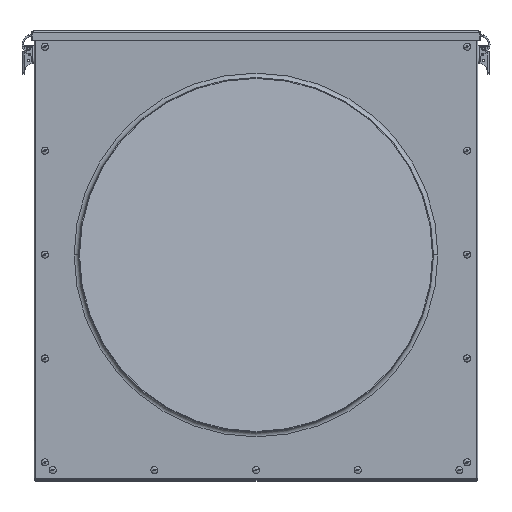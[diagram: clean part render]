
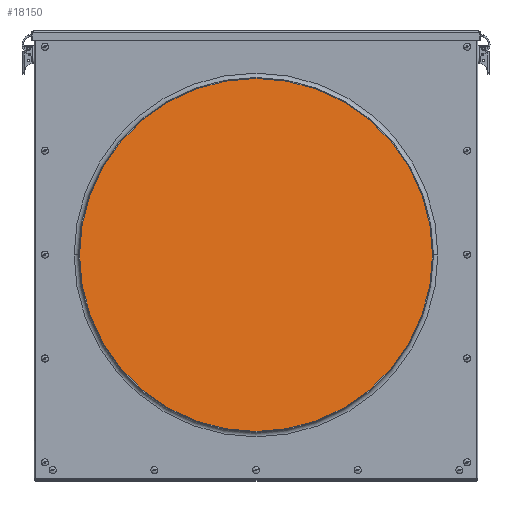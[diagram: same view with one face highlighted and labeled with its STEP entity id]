
A CAD part, top view. The second image highlights one B-rep face of the part: STEP entity #18150.
In plain terms, the highlighted planar face has unit normal (0.26, 0, 0.966).
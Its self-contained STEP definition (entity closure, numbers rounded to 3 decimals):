
#35 = DIRECTION ( 'NONE',  ( 0., 1., 0. ) ) ;
#378 = DIRECTION ( 'NONE',  ( -0.965, 0., 0.26 ) ) ;
#611 = VERTEX_POINT ( 'NONE', #1290 ) ;
#1263 = CARTESIAN_POINT ( 'NONE',  ( -245.419, 501.2, 69.096 ) ) ;
#1290 = CARTESIAN_POINT ( 'NONE',  ( 246.981, 4.2, -63.728 ) ) ;
#2927 = DIRECTION ( 'NONE',  ( 0.965, 0., -0.26 ) ) ;
#3291 = CARTESIAN_POINT ( 'NONE',  ( 246.981, 501.2, -63.728 ) ) ;
#3345 = EDGE_CURVE ( 'NONE', #8277, #18669, #15229, .T. ) ;
#3357 = CARTESIAN_POINT ( 'NONE',  ( 246.981, 4.2, -63.728 ) ) ;
#4361 = VECTOR ( 'NONE', #378, 1000. ) ;
#4854 = LINE ( 'NONE', #3357, #4361 ) ;
#4877 = FACE_OUTER_BOUND ( 'NONE', #16731, .T. ) ;
#5079 = LINE ( 'NONE', #3291, #8493 ) ;
#5102 = ORIENTED_EDGE ( 'NONE', *, *, #12943, .F. ) ;
#5711 = DIRECTION ( 'NONE',  ( 0.26, 0., 0.965 ) ) ;
#5891 = CARTESIAN_POINT ( 'NONE',  ( -245.419, 501.2, 69.096 ) ) ;
#7046 = VECTOR ( 'NONE', #35, 1000. ) ;
#7054 = ORIENTED_EDGE ( 'NONE', *, *, #3345, .F. ) ;
#7686 = LINE ( 'NONE', #18838, #18802 ) ;
#7786 = CARTESIAN_POINT ( 'NONE',  ( 246.981, 501.2, -63.728 ) ) ;
#8277 = VERTEX_POINT ( 'NONE', #12846 ) ;
#8493 = VECTOR ( 'NONE', #14956, 1000. ) ;
#10285 = VERTEX_POINT ( 'NONE', #7786 ) ;
#11329 = ORIENTED_EDGE ( 'NONE', *, *, #15515, .F. ) ;
#12846 = CARTESIAN_POINT ( 'NONE',  ( -245.419, 4.2, 69.096 ) ) ;
#12907 = CARTESIAN_POINT ( 'NONE',  ( -245.419, 501.2, 69.096 ) ) ;
#12943 = EDGE_CURVE ( 'NONE', #18669, #10285, #7686, .T. ) ;
#14450 = ORIENTED_EDGE ( 'NONE', *, *, #15224, .F. ) ;
#14488 = AXIS2_PLACEMENT_3D ( 'NONE', #1263, #5711, #15878 ) ;
#14956 = DIRECTION ( 'NONE',  ( 0., -1., 0. ) ) ;
#15224 = EDGE_CURVE ( 'NONE', #10285, #611, #5079, .T. ) ;
#15229 = LINE ( 'NONE', #5891, #7046 ) ;
#15515 = EDGE_CURVE ( 'NONE', #611, #8277, #4854, .T. ) ;
#15878 = DIRECTION ( 'NONE',  ( 0., 1., 0. ) ) ;
#16731 = EDGE_LOOP ( 'NONE', ( #5102, #7054, #11329, #14450 ) ) ;
#17274 = PLANE ( 'NONE',  #14488 ) ;
#18150 = ADVANCED_FACE ( 'NONE', ( #4877 ), #17274, .T. ) ;
#18669 = VERTEX_POINT ( 'NONE', #12907 ) ;
#18802 = VECTOR ( 'NONE', #2927, 1000. ) ;
#18838 = CARTESIAN_POINT ( 'NONE',  ( 246.981, 501.2, -63.728 ) ) ;
